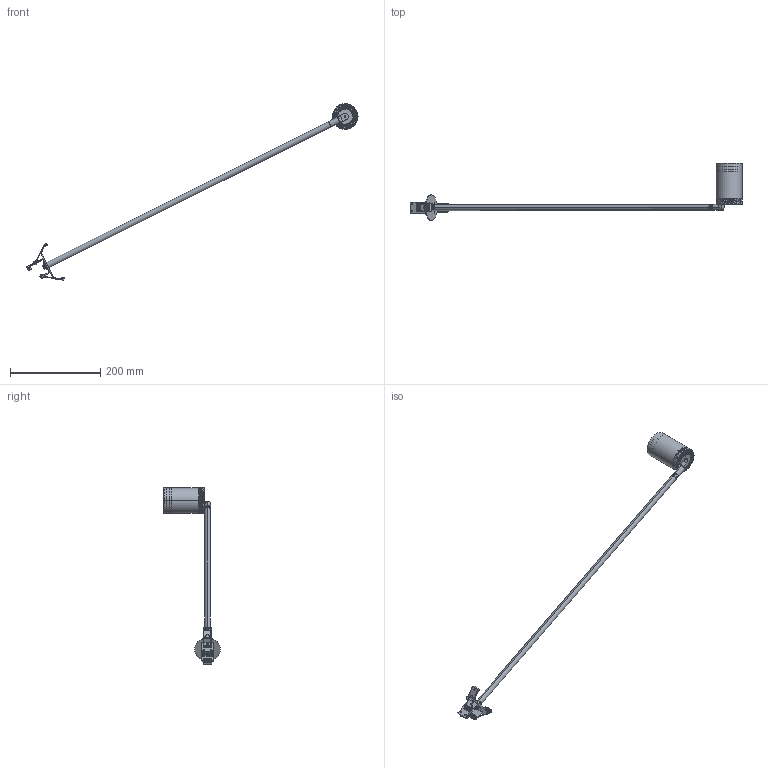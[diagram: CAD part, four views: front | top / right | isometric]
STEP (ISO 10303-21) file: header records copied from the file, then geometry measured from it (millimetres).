
FILE_DESCRIPTION((''),'2;1');
FILE_NAME('1233G-700_ASM','2022-08-09T',('Administrator'),(''),'PRO/ENGINEER BY PARAMETRIC TECHNOLOGY CORPORATION, 2014310','PRO/ENGINEER BY PARAMETRIC TECHNOLOGY CORPORATION, 2014310','');
FILE_SCHEMA(('CONFIG_CONTROL_DESIGN'));
Length unit declared in the file: millimetre
Products named in the file (16): 1131G-700-01; 1130-05_1; 1130-04; GU10-DAIHOUGAI_1; GU10_DENG_PAO; GU10GUANGYUAN_ASM; 1130G-01; 1130-03; M10-15_1; 1233G-01; 1130-07; M10X1NUT_1; 22X8YAXIANBANM3; TANHUANG55X16; TANHUANGTAO24X18; 1233G-700_ASM
Assembly tree (18 placements, depth 3):
  1233G-700_ASM
    1131G-700-01
    1130-05_1
    1130-04
    GU10GUANGYUAN_ASM
      GU10-DAIHOUGAI_1
      GU10_DENG_PAO
    1130G-01
    1130-03
    M10-15_1
    1233G-01
    1130-07
    M10X1NUT_1
    22X8YAXIANBANM3  x2
    TANHUANG55X16  x2
    TANHUANGTAO24X18  x2
Bounding box: 736.38 x 126 x 391.59 mm (x, y, z)
Volume: 127572.2 mm3; surface area: 140514 mm2
Topology: 18 solids, 21 shells, 2164 faces, 6526 edges, 4382 vertices
Faces by surface type: cylinder 1088, plane 751, bspline 216, cone 67, torus 42
Entity records: 95989 total; most frequent: CARTESIAN_POINT 39410, ORIENTED_EDGE 12542, DIRECTION 11395, EDGE_CURVE 6273, AXIS2_PLACEMENT_3D 4412, VERTEX_POINT 4222, VECTOR 2571, LINE 2571
